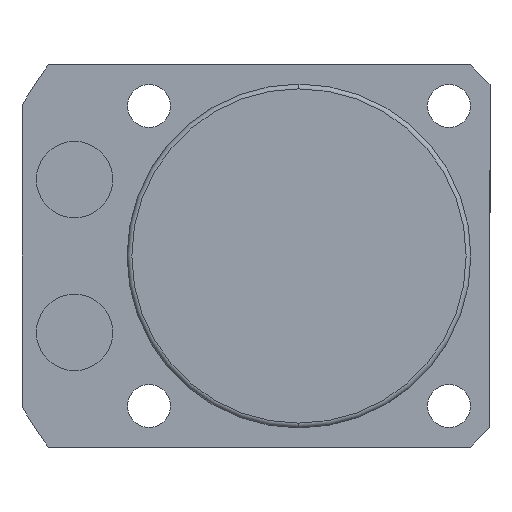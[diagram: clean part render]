
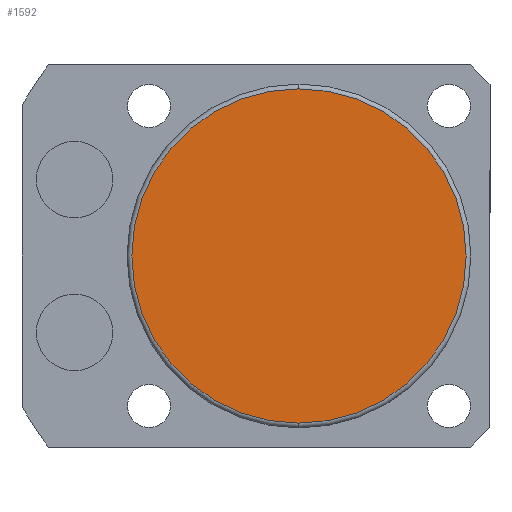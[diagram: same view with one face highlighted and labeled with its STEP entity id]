
A CAD part, front view. The second image highlights one B-rep face of the part: STEP entity #1592.
In plain terms, the highlighted planar face has unit normal (0, -1, 0).
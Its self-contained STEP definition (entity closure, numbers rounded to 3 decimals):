
#45 = ORIENTED_EDGE ( 'NONE', *, *, #1633, .T. ) ;
#180 = EDGE_LOOP ( 'NONE', ( #757, #45 ) ) ;
#184 = CARTESIAN_POINT ( 'NONE',  ( 0., -70.5, 0. ) ) ;
#283 = AXIS2_PLACEMENT_3D ( 'NONE', #184, #562, #914 ) ;
#343 = DIRECTION ( 'NONE',  ( 0., -1., 0. ) ) ;
#476 = FACE_OUTER_BOUND ( 'NONE', #180, .T. ) ;
#562 = DIRECTION ( 'NONE',  ( 0., -1., 0. ) ) ;
#618 = VERTEX_POINT ( 'NONE', #1166 ) ;
#710 = AXIS2_PLACEMENT_3D ( 'NONE', #1284, #343, #1469 ) ;
#730 = PLANE ( 'NONE',  #710 ) ;
#757 = ORIENTED_EDGE ( 'NONE', *, *, #2441, .T. ) ;
#801 = CIRCLE ( 'NONE', #1240, 17.5 ) ;
#914 = DIRECTION ( 'NONE',  ( 0., 0., -1. ) ) ;
#1093 = CARTESIAN_POINT ( 'NONE',  ( 0., -70.5, -17.5 ) ) ;
#1166 = CARTESIAN_POINT ( 'NONE',  ( 0., -70.5, 17.5 ) ) ;
#1240 = AXIS2_PLACEMENT_3D ( 'NONE', #1327, #1312, #2449 ) ;
#1284 = CARTESIAN_POINT ( 'NONE',  ( 0., -70.5, 0. ) ) ;
#1312 = DIRECTION ( 'NONE',  ( 0., -1., 0. ) ) ;
#1327 = CARTESIAN_POINT ( 'NONE',  ( 0., -70.5, 0. ) ) ;
#1469 = DIRECTION ( 'NONE',  ( 0., 0., -1. ) ) ;
#1554 = VERTEX_POINT ( 'NONE', #1093 ) ;
#1592 = ADVANCED_FACE ( 'NONE', ( #476 ), #730, .T. ) ;
#1633 = EDGE_CURVE ( 'NONE', #618, #1554, #801, .T. ) ;
#2100 = CIRCLE ( 'NONE', #283, 17.5 ) ;
#2441 = EDGE_CURVE ( 'NONE', #1554, #618, #2100, .T. ) ;
#2449 = DIRECTION ( 'NONE',  ( 0., 0., -1. ) ) ;
